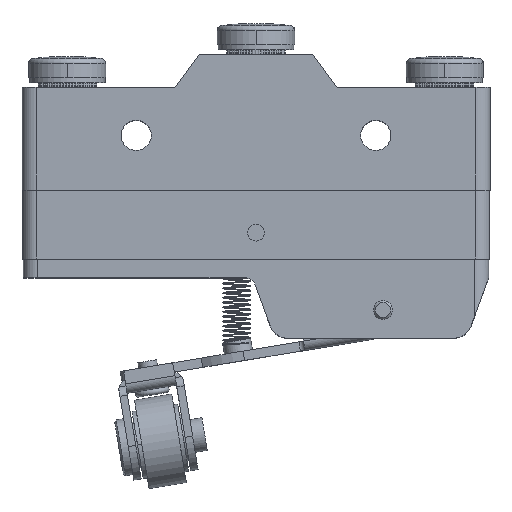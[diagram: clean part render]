
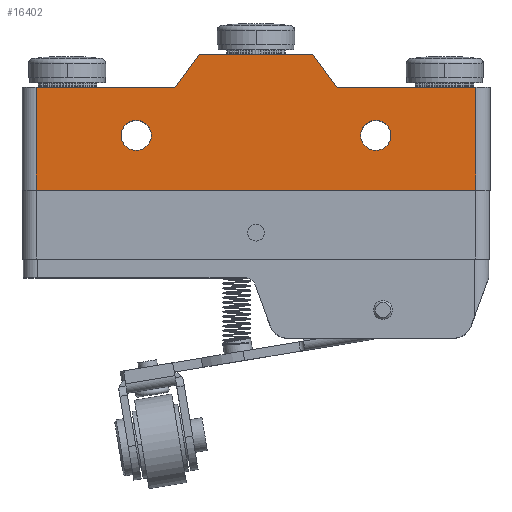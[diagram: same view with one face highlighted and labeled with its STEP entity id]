
A CAD part, top view. The second image highlights one B-rep face of the part: STEP entity #16402.
In plain terms, the highlighted planar face has unit normal (0, 0, 1).
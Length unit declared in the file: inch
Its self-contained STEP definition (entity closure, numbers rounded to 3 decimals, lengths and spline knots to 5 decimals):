
#2637=DIRECTION('',(0.,-1.,0.));
#2638=VECTOR('',#2637,10.9);
#2639=CARTESIAN_POINT('',(77.30793,-15.51052,
0.));
#2640=LINE('',#2639,#2638);
#2641=DIRECTION('',(1.,0.,0.));
#2642=VECTOR('',#2641,14.7);
#2643=CARTESIAN_POINT('',(77.30793,-15.51052,
0.));
#2644=LINE('',#2643,#2642);
#2645=DIRECTION('',(0.596,0.803,0.));
#2646=VECTOR('',#2645,4.36005);
#2647=CARTESIAN_POINT('',(92.00793,-15.51052,
0.));
#2648=LINE('',#2647,#2646);
#2649=DIRECTION('',(1.,0.,0.));
#2650=VECTOR('',#2649,12.);
#2651=CARTESIAN_POINT('',(94.60793,-12.01052,
0.));
#2652=LINE('',#2651,#2650);
#2653=DIRECTION('',(0.596,-0.803,0.));
#2654=VECTOR('',#2653,4.36005);
#2655=CARTESIAN_POINT('',(106.60793,-12.01052,0.));
#2656=LINE('',#2655,#2654);
#2657=DIRECTION('',(1.,0.,0.));
#2658=VECTOR('',#2657,14.7);
#2659=CARTESIAN_POINT('',(109.20793,-15.51052,0.));
#2660=LINE('',#2659,#2658);
#2661=DIRECTION('',(-1.,0.,0.));
#2662=VECTOR('',#2661,46.6);
#2663=CARTESIAN_POINT('',(123.90793,-26.41052,
0.));
#2664=LINE('',#2663,#2662);
#2665=CARTESIAN_POINT('',(87.90793,-20.61052,
0.));
#2666=DIRECTION('',(0.,0.,1.));
#2667=DIRECTION('',(1.,0.,0.));
#2668=AXIS2_PLACEMENT_3D('',#2665,#2666,#2667);
#2670=CARTESIAN_POINT('',(87.90793,-20.61052,
0.));
#2671=DIRECTION('',(0.,0.,1.));
#2672=DIRECTION('',(-1.,0.,0.));
#2673=AXIS2_PLACEMENT_3D('',#2670,#2671,#2672);
#2675=CARTESIAN_POINT('',(113.30793,-20.61052,
0.));
#2676=DIRECTION('',(0.,0.,1.));
#2677=DIRECTION('',(1.,0.,0.));
#2678=AXIS2_PLACEMENT_3D('',#2675,#2676,#2677);
#2680=CARTESIAN_POINT('',(113.30793,-20.61052,
0.));
#2681=DIRECTION('',(0.,0.,1.));
#2682=DIRECTION('',(-1.,0.,0.));
#2683=AXIS2_PLACEMENT_3D('',#2680,#2681,#2682);
#2741=DIRECTION('',(0.,1.,0.));
#2742=VECTOR('',#2741,10.9);
#2743=CARTESIAN_POINT('',(123.90793,-26.41052,
0.));
#2744=LINE('',#2743,#2742);
#11557=CARTESIAN_POINT('',(106.60793,-12.01052,0.));
#11558=VERTEX_POINT('',#11557);
#11559=CARTESIAN_POINT('',(94.60793,-12.01052,
0.));
#11560=VERTEX_POINT('',#11559);
#11586=CARTESIAN_POINT('',(77.30793,-26.41052,0.));
#11588=VERTEX_POINT('',#11586);
#11589=CARTESIAN_POINT('',(123.90793,-26.41052,
0.));
#11590=VERTEX_POINT('',#11589);
#11613=CARTESIAN_POINT('',(77.30793,-15.51052,0.));
#11614=VERTEX_POINT('',#11613);
#11615=CARTESIAN_POINT('',(92.00793,-15.51052,
0.));
#11616=VERTEX_POINT('',#11615);
#11796=CARTESIAN_POINT('',(109.20793,-15.51052,0.));
#11797=VERTEX_POINT('',#11796);
#11798=CARTESIAN_POINT('',(123.90793,-15.51052,0.));
#11799=VERTEX_POINT('',#11798);
#11800=CARTESIAN_POINT('',(89.50793,-20.61052,
0.));
#11801=CARTESIAN_POINT('',(86.30793,-20.61052,
0.));
#11802=VERTEX_POINT('',#11800);
#11803=VERTEX_POINT('',#11801);
#11804=CARTESIAN_POINT('',(114.90793,-20.61052,
0.));
#11805=CARTESIAN_POINT('',(111.70793,-20.61052,
0.));
#11806=VERTEX_POINT('',#11804);
#11807=VERTEX_POINT('',#11805);
#16370=CARTESIAN_POINT('',(100.60793,-19.21052,
0.));
#16371=DIRECTION('',(0.,0.,1.));
#16372=DIRECTION('',(1.,0.,0.));
#16373=AXIS2_PLACEMENT_3D('',#16370,#16371,#16372);
#16374=PLANE('',#16373);
#16375=ORIENTED_EDGE('',*,*,#16353,.F.);
#16376=ORIENTED_EDGE('',*,*,#16142,.T.);
#16378=ORIENTED_EDGE('',*,*,#16377,.T.);
#16380=ORIENTED_EDGE('',*,*,#16379,.T.);
#16382=ORIENTED_EDGE('',*,*,#16381,.T.);
#16384=ORIENTED_EDGE('',*,*,#16383,.T.);
#16386=ORIENTED_EDGE('',*,*,#16385,.F.);
#16387=ORIENTED_EDGE('',*,*,#16310,.T.);
#16388=EDGE_LOOP('',(#16375,#16376,#16378,#16380,#16382,#16384,#16386,#16387));
#16389=FACE_OUTER_BOUND('',#16388,.F.);
#16391=ORIENTED_EDGE('',*,*,#16390,.T.);
#16393=ORIENTED_EDGE('',*,*,#16392,.T.);
#16394=EDGE_LOOP('',(#16391,#16393));
#16395=FACE_BOUND('',#16394,.F.);
#16397=ORIENTED_EDGE('',*,*,#16396,.T.);
#16399=ORIENTED_EDGE('',*,*,#16398,.T.);
#16400=EDGE_LOOP('',(#16397,#16399));
#16401=FACE_BOUND('',#16400,.F.);
#16402=ADVANCED_FACE('',(#16389,#16395,#16401),#16374,.T.);
#2669=CIRCLE('',#2668,1.6);
#2674=CIRCLE('',#2673,1.6);
#2679=CIRCLE('',#2678,1.6);
#2684=CIRCLE('',#2683,1.6);
#16142=EDGE_CURVE('',#11614,#11616,#2644,.T.);
#16310=EDGE_CURVE('',#11590,#11588,#2664,.T.);
#16353=EDGE_CURVE('',#11614,#11588,#2640,.T.);
#16377=EDGE_CURVE('',#11616,#11560,#2648,.T.);
#16379=EDGE_CURVE('',#11560,#11558,#2652,.T.);
#16381=EDGE_CURVE('',#11558,#11797,#2656,.T.);
#16383=EDGE_CURVE('',#11797,#11799,#2660,.T.);
#16385=EDGE_CURVE('',#11590,#11799,#2744,.T.);
#16390=EDGE_CURVE('',#11802,#11803,#2669,.T.);
#16392=EDGE_CURVE('',#11803,#11802,#2674,.T.);
#16396=EDGE_CURVE('',#11806,#11807,#2679,.T.);
#16398=EDGE_CURVE('',#11807,#11806,#2684,.T.);
